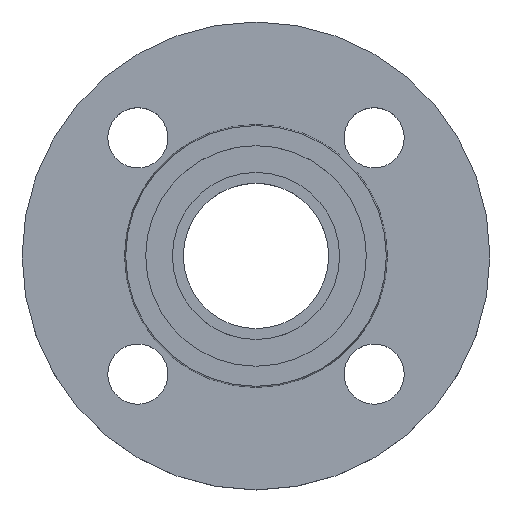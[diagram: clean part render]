
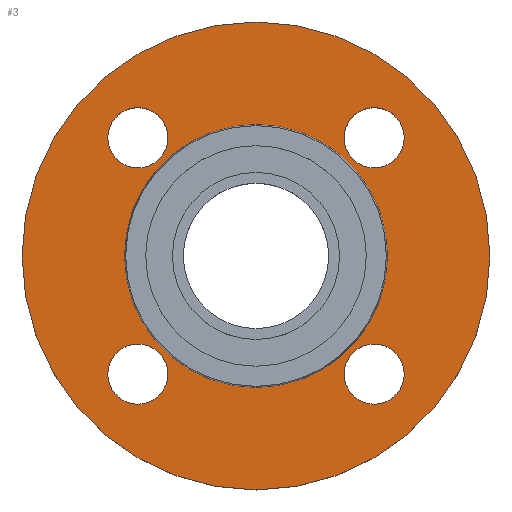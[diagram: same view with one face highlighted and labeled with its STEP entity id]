
A CAD part, top view. The second image highlights one B-rep face of the part: STEP entity #3.
In plain terms, the highlighted planar face has unit normal (0, 0, 1).
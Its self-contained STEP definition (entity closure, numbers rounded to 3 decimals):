
#3 = ADVANCED_FACE ( 'NONE', ( #540, #24, #247, #485, #711, #190 ), #425, .T. ) ;
#9 = DIRECTION ( 'NONE',  ( 0., 0., -1. ) ) ;
#12 = DIRECTION ( 'NONE',  ( -1., 0., 0. ) ) ;
#16 = DIRECTION ( 'NONE',  ( 1., 0., 0. ) ) ;
#17 = EDGE_LOOP ( 'NONE', ( #621, #618 ) ) ;
#18 = CARTESIAN_POINT ( 'NONE',  ( -70., 0., -2. ) ) ;
#20 = DIRECTION ( 'NONE',  ( 1., 0., 0. ) ) ;
#24 = FACE_BOUND ( 'NONE', #560, .T. ) ;
#46 = EDGE_LOOP ( 'NONE', ( #166, #734 ) ) ;
#52 = VERTEX_POINT ( 'NONE', #88 ) ;
#54 = ORIENTED_EDGE ( 'NONE', *, *, #649, .F. ) ;
#68 = VERTEX_POINT ( 'NONE', #378 ) ;
#76 = AXIS2_PLACEMENT_3D ( 'NONE', #524, #9, #234 ) ;
#88 = CARTESIAN_POINT ( 'NONE',  ( 26.355, -35.355, -2. ) ) ;
#93 = DIRECTION ( 'NONE',  ( 0., 0., -1. ) ) ;
#97 = EDGE_LOOP ( 'NONE', ( #206, #609 ) ) ;
#107 = ORIENTED_EDGE ( 'NONE', *, *, #542, .T. ) ;
#109 = AXIS2_PLACEMENT_3D ( 'NONE', #295, #536, #20 ) ;
#117 = DIRECTION ( 'NONE',  ( 0., 0., -1. ) ) ;
#119 = DIRECTION ( 'NONE',  ( 0., 0., -1. ) ) ;
#123 = DIRECTION ( 'NONE',  ( 0., 0., -1. ) ) ;
#126 = CIRCLE ( 'NONE', #557, 70. ) ;
#128 = CIRCLE ( 'NONE', #747, 9. ) ;
#129 = CARTESIAN_POINT ( 'NONE',  ( 44.355, 35.355, -2. ) ) ;
#136 = DIRECTION ( 'NONE',  ( 0., 0., 1. ) ) ;
#142 = DIRECTION ( 'NONE',  ( 0., 0., -1. ) ) ;
#166 = ORIENTED_EDGE ( 'NONE', *, *, #624, .T. ) ;
#173 = EDGE_CURVE ( 'NONE', #503, #408, #659, .T. ) ;
#187 = CARTESIAN_POINT ( 'NONE',  ( 35.355, -35.355, -2. ) ) ;
#190 = FACE_OUTER_BOUND ( 'NONE', #460, .T. ) ;
#192 = DIRECTION ( 'NONE',  ( 0., 0., -1. ) ) ;
#204 = DIRECTION ( 'NONE',  ( 0., 0., -1. ) ) ;
#205 = ORIENTED_EDGE ( 'NONE', *, *, #225, .T. ) ;
#206 = ORIENTED_EDGE ( 'NONE', *, *, #412, .T. ) ;
#215 = CIRCLE ( 'NONE', #632, 9. ) ;
#225 = EDGE_CURVE ( 'NONE', #535, #325, #721, .T. ) ;
#234 = DIRECTION ( 'NONE',  ( -1., 0., 0. ) ) ;
#235 = ORIENTED_EDGE ( 'NONE', *, *, #173, .T. ) ;
#236 = CARTESIAN_POINT ( 'NONE',  ( -44.355, -35.355, -2. ) ) ;
#238 = CARTESIAN_POINT ( 'NONE',  ( -39.353, 0., -2. ) ) ;
#240 = CIRCLE ( 'NONE', #678, 39.353 ) ;
#247 = FACE_BOUND ( 'NONE', #97, .T. ) ;
#269 = VERTEX_POINT ( 'NONE', #692 ) ;
#271 = AXIS2_PLACEMENT_3D ( 'NONE', #641, #123, #347 ) ;
#273 = CIRCLE ( 'NONE', #369, 9. ) ;
#286 = CARTESIAN_POINT ( 'NONE',  ( 0., 0., -2. ) ) ;
#288 = AXIS2_PLACEMENT_3D ( 'NONE', #187, #421, #653 ) ;
#290 = VERTEX_POINT ( 'NONE', #471 ) ;
#293 = CARTESIAN_POINT ( 'NONE',  ( -35.355, -35.355, -2. ) ) ;
#295 = CARTESIAN_POINT ( 'NONE',  ( -35.355, 35.355, -2. ) ) ;
#306 = CARTESIAN_POINT ( 'NONE',  ( 26.355, 35.355, -2. ) ) ;
#314 = DIRECTION ( 'NONE',  ( 1., 0., 0. ) ) ;
#324 = EDGE_CURVE ( 'NONE', #269, #332, #126, .T. ) ;
#325 = VERTEX_POINT ( 'NONE', #236 ) ;
#329 = AXIS2_PLACEMENT_3D ( 'NONE', #660, #142, #371 ) ;
#332 = VERTEX_POINT ( 'NONE', #18 ) ;
#338 = CIRCLE ( 'NONE', #456, 9. ) ;
#340 = EDGE_CURVE ( 'NONE', #325, #535, #338, .T. ) ;
#341 = DIRECTION ( 'NONE',  ( -1., 0., 0. ) ) ;
#343 = DIRECTION ( 'NONE',  ( 1., 0., 0. ) ) ;
#347 = DIRECTION ( 'NONE',  ( -1., 0., 0. ) ) ;
#365 = DIRECTION ( 'NONE',  ( 1., 0., 0. ) ) ;
#369 = AXIS2_PLACEMENT_3D ( 'NONE', #713, #192, #427 ) ;
#371 = DIRECTION ( 'NONE',  ( 1., 0., 0. ) ) ;
#378 = CARTESIAN_POINT ( 'NONE',  ( -26.355, 35.355, -2. ) ) ;
#384 = EDGE_CURVE ( 'NONE', #705, #68, #273, .T. ) ;
#396 = AXIS2_PLACEMENT_3D ( 'NONE', #611, #93, #314 ) ;
#401 = CIRCLE ( 'NONE', #76, 70. ) ;
#408 = VERTEX_POINT ( 'NONE', #129 ) ;
#412 = EDGE_CURVE ( 'NONE', #68, #705, #436, .T. ) ;
#413 = CARTESIAN_POINT ( 'NONE',  ( 39.353, 0., -2. ) ) ;
#421 = DIRECTION ( 'NONE',  ( 0., 0., -1. ) ) ;
#425 = PLANE ( 'NONE',  #455 ) ;
#427 = DIRECTION ( 'NONE',  ( 1., 0., 0. ) ) ;
#430 = EDGE_CURVE ( 'NONE', #52, #290, #627, .T. ) ;
#436 = CIRCLE ( 'NONE', #109, 9. ) ;
#441 = DIRECTION ( 'NONE',  ( 1., 0., 0. ) ) ;
#455 = AXIS2_PLACEMENT_3D ( 'NONE', #656, #136, #365 ) ;
#456 = AXIS2_PLACEMENT_3D ( 'NONE', #293, #534, #16 ) ;
#460 = EDGE_LOOP ( 'NONE', ( #593, #54 ) ) ;
#471 = CARTESIAN_POINT ( 'NONE',  ( 44.355, -35.355, -2. ) ) ;
#485 = FACE_BOUND ( 'NONE', #638, .T. ) ;
#498 = CARTESIAN_POINT ( 'NONE',  ( -26.355, -35.355, -2. ) ) ;
#503 = VERTEX_POINT ( 'NONE', #306 ) ;
#524 = CARTESIAN_POINT ( 'NONE',  ( 0., 0., -2. ) ) ;
#529 = DIRECTION ( 'NONE',  ( 0., 0., -1. ) ) ;
#534 = DIRECTION ( 'NONE',  ( 0., 0., -1. ) ) ;
#535 = VERTEX_POINT ( 'NONE', #498 ) ;
#536 = DIRECTION ( 'NONE',  ( 0., 0., -1. ) ) ;
#540 = FACE_BOUND ( 'NONE', #46, .T. ) ;
#542 = EDGE_CURVE ( 'NONE', #408, #503, #128, .T. ) ;
#557 = AXIS2_PLACEMENT_3D ( 'NONE', #286, #529, #12 ) ;
#560 = EDGE_LOOP ( 'NONE', ( #205, #684 ) ) ;
#588 = EDGE_CURVE ( 'NONE', #683, #651, #240, .T. ) ;
#593 = ORIENTED_EDGE ( 'NONE', *, *, #324, .F. ) ;
#596 = CIRCLE ( 'NONE', #271, 39.353 ) ;
#609 = ORIENTED_EDGE ( 'NONE', *, *, #384, .T. ) ;
#611 = CARTESIAN_POINT ( 'NONE',  ( -35.355, -35.355, -2. ) ) ;
#618 = ORIENTED_EDGE ( 'NONE', *, *, #652, .T. ) ;
#621 = ORIENTED_EDGE ( 'NONE', *, *, #588, .T. ) ;
#624 = EDGE_CURVE ( 'NONE', #290, #52, #215, .T. ) ;
#627 = CIRCLE ( 'NONE', #288, 9. ) ;
#632 = AXIS2_PLACEMENT_3D ( 'NONE', #637, #119, #343 ) ;
#634 = CARTESIAN_POINT ( 'NONE',  ( 0., 0., -2. ) ) ;
#637 = CARTESIAN_POINT ( 'NONE',  ( 35.355, -35.355, -2. ) ) ;
#638 = EDGE_LOOP ( 'NONE', ( #107, #235 ) ) ;
#641 = CARTESIAN_POINT ( 'NONE',  ( 0., 0., -2. ) ) ;
#649 = EDGE_CURVE ( 'NONE', #332, #269, #401, .T. ) ;
#651 = VERTEX_POINT ( 'NONE', #413 ) ;
#652 = EDGE_CURVE ( 'NONE', #651, #683, #596, .T. ) ;
#653 = DIRECTION ( 'NONE',  ( 1., 0., 0. ) ) ;
#656 = CARTESIAN_POINT ( 'NONE',  ( 39.353, 0., -2. ) ) ;
#659 = CIRCLE ( 'NONE', #329, 9. ) ;
#660 = CARTESIAN_POINT ( 'NONE',  ( 35.355, 35.355, -2. ) ) ;
#663 = CARTESIAN_POINT ( 'NONE',  ( -44.355, 35.355, -2. ) ) ;
#678 = AXIS2_PLACEMENT_3D ( 'NONE', #634, #117, #341 ) ;
#683 = VERTEX_POINT ( 'NONE', #238 ) ;
#684 = ORIENTED_EDGE ( 'NONE', *, *, #340, .T. ) ;
#692 = CARTESIAN_POINT ( 'NONE',  ( 70., 0., -2. ) ) ;
#705 = VERTEX_POINT ( 'NONE', #663 ) ;
#711 = FACE_BOUND ( 'NONE', #17, .T. ) ;
#713 = CARTESIAN_POINT ( 'NONE',  ( -35.355, 35.355, -2. ) ) ;
#721 = CIRCLE ( 'NONE', #396, 9. ) ;
#725 = CARTESIAN_POINT ( 'NONE',  ( 35.355, 35.355, -2. ) ) ;
#734 = ORIENTED_EDGE ( 'NONE', *, *, #430, .T. ) ;
#747 = AXIS2_PLACEMENT_3D ( 'NONE', #725, #204, #441 ) ;
